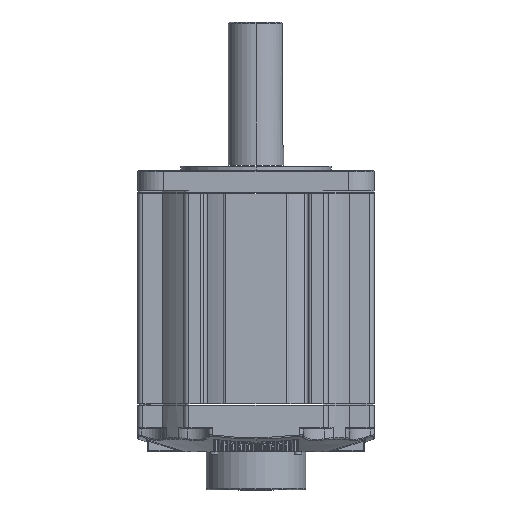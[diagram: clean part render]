
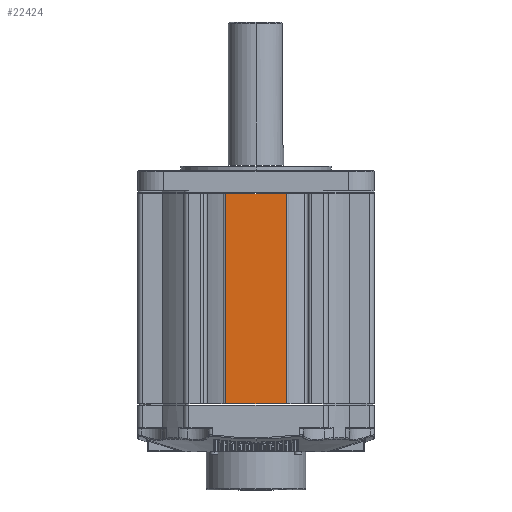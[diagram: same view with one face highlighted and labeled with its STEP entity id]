
A CAD part, front view. The second image highlights one B-rep face of the part: STEP entity #22424.
In plain terms, the highlighted planar face has unit normal (0, -1, 0).
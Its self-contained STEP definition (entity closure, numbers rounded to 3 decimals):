
#1537 = PLANE ( 'NONE',  #36195 ) ;
#2991 = VERTEX_POINT ( 'NONE', #12176 ) ;
#5147 = ORIENTED_EDGE ( 'NONE', *, *, #13845, .F. ) ;
#5441 = CARTESIAN_POINT ( 'NONE',  ( -67., -456.426, 34.733 ) ) ;
#7411 = ORIENTED_EDGE ( 'NONE', *, *, #61815, .T. ) ;
#10719 = VERTEX_POINT ( 'NONE', #27818 ) ;
#12176 = CARTESIAN_POINT ( 'NONE',  ( -113., -456.426, -125.267 ) ) ;
#13222 = EDGE_CURVE ( 'NONE', #62537, #46019, #51276, .T. ) ;
#13845 = EDGE_CURVE ( 'NONE', #10719, #2991, #75724, .T. ) ;
#19682 = FACE_OUTER_BOUND ( 'NONE', #47689, .T. ) ;
#21498 = VECTOR ( 'NONE', #21955, 1000. ) ;
#21955 = DIRECTION ( 'NONE',  ( -1., 0., 0. ) ) ;
#22424 = ADVANCED_FACE ( 'NONE', ( #19682 ), #1537, .T. ) ;
#24748 = CARTESIAN_POINT ( 'NONE',  ( -113., -456.426, 34.733 ) ) ;
#26221 = CARTESIAN_POINT ( 'NONE',  ( 0., -456.426, 34.733 ) ) ;
#27801 = DIRECTION ( 'NONE',  ( 0., 0., -1. ) ) ;
#27818 = CARTESIAN_POINT ( 'NONE',  ( -67., -456.426, -125.267 ) ) ;
#36195 = AXIS2_PLACEMENT_3D ( 'NONE', #26221, #66350, #66733 ) ;
#41474 = ORIENTED_EDGE ( 'NONE', *, *, #13222, .T. ) ;
#44546 = DIRECTION ( 'NONE',  ( -1., 0., 0. ) ) ;
#44914 = CARTESIAN_POINT ( 'NONE',  ( -67., -456.426, -125.267 ) ) ;
#45535 = LINE ( 'NONE', #64028, #70757 ) ;
#46019 = VERTEX_POINT ( 'NONE', #24748 ) ;
#47689 = EDGE_LOOP ( 'NONE', ( #41474, #7411, #5147, #53620 ) ) ;
#51276 = LINE ( 'NONE', #74769, #21498 ) ;
#53620 = ORIENTED_EDGE ( 'NONE', *, *, #72751, .T. ) ;
#57868 = VECTOR ( 'NONE', #58667, 1000. ) ;
#58667 = DIRECTION ( 'NONE',  ( 0., 0., 1. ) ) ;
#59151 = CARTESIAN_POINT ( 'NONE',  ( -67., -456.426, 34.733 ) ) ;
#61815 = EDGE_CURVE ( 'NONE', #46019, #2991, #45535, .T. ) ;
#62537 = VERTEX_POINT ( 'NONE', #59151 ) ;
#64028 = CARTESIAN_POINT ( 'NONE',  ( -113., -456.426, -75.267 ) ) ;
#66350 = DIRECTION ( 'NONE',  ( 0., -1., 0. ) ) ;
#66733 = DIRECTION ( 'NONE',  ( 0., 0., -1. ) ) ;
#70220 = LINE ( 'NONE', #5441, #57868 ) ;
#70629 = VECTOR ( 'NONE', #44546, 1000. ) ;
#70757 = VECTOR ( 'NONE', #27801, 1000. ) ;
#72751 = EDGE_CURVE ( 'NONE', #10719, #62537, #70220, .T. ) ;
#74769 = CARTESIAN_POINT ( 'NONE',  ( 0., -456.426, 34.733 ) ) ;
#75724 = LINE ( 'NONE', #44914, #70629 ) ;
